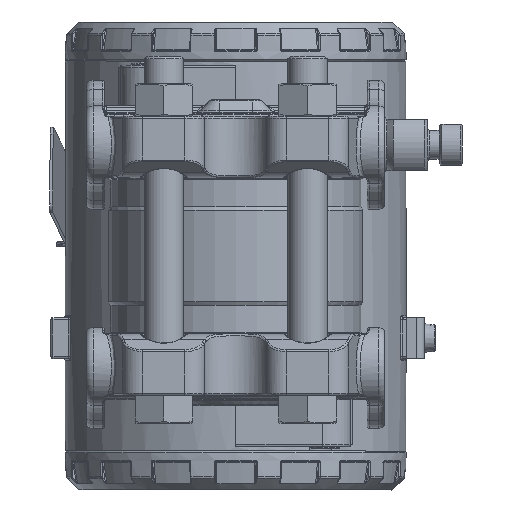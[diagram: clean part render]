
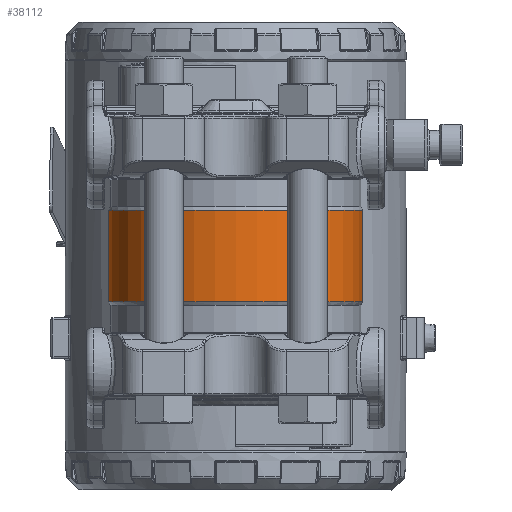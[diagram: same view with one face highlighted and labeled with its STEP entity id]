
A CAD part, left-side view. The second image highlights one B-rep face of the part: STEP entity #38112.
In plain terms, the highlighted cylindrical face has radius 31 mm (diameter 62 mm), a partial arc.
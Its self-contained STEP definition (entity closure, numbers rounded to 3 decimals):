
#2312=B_SPLINE_CURVE_WITH_KNOTS('',3,(#68599,#68600,#68601,#68602,#68603),
 .UNSPECIFIED.,.F.,.F.,(4,1,4),(0.57,0.913,1.279),
 .UNSPECIFIED.);
#2314=B_SPLINE_CURVE_WITH_KNOTS('',3,(#68616,#68617,#68618,#68619,#68620,
#68621),.UNSPECIFIED.,.F.,.F.,(4,1,1,4),(0.,0.274,0.548,
0.708),.UNSPECIFIED.);
#2315=B_SPLINE_CURVE_WITH_KNOTS('',3,(#68624,#68625,#68626,#68627,#68628),
 .UNSPECIFIED.,.F.,.F.,(4,1,4),(0.57,0.913,1.279),
 .UNSPECIFIED.);
#2316=B_SPLINE_CURVE_WITH_KNOTS('',3,(#68630,#68631,#68632,#68633,#68634,
#68635),.UNSPECIFIED.,.F.,.F.,(4,1,1,4),(0.,0.274,
0.548,0.708),.UNSPECIFIED.);
#3899=CYLINDRICAL_SURFACE('',#42039,31.);
#5124=FACE_OUTER_BOUND('',#7687,.T.);
#7687=EDGE_LOOP('',(#28825,#28826,#28827,#28828,#28829,#28830,#28831,#28832,
#28833,#28834));
#9899=LINE('',#68623,#11273);
#9900=LINE('',#68636,#11274);
#11273=VECTOR('',#49309,10.);
#11274=VECTOR('',#49310,10.);
#13244=CIRCLE('',#42019,31.);
#13247=CIRCLE('',#42022,31.);
#13253=CIRCLE('',#42032,31.);
#13254=CIRCLE('',#42033,31.);
#16398=VERTEX_POINT('',#68450);
#16400=VERTEX_POINT('',#68463);
#16401=VERTEX_POINT('',#68474);
#16413=VERTEX_POINT('',#68537);
#16414=VERTEX_POINT('',#68539);
#16415=VERTEX_POINT('',#68551);
#16417=VERTEX_POINT('',#68598);
#16420=VERTEX_POINT('',#68615);
#16421=VERTEX_POINT('',#68622);
#16422=VERTEX_POINT('',#68629);
#20777=EDGE_CURVE('',#16401,#16400,#13244,.T.);
#20781=EDGE_CURVE('',#16398,#16401,#13247,.T.);
#20793=EDGE_CURVE('',#16414,#16413,#13253,.T.);
#20796=EDGE_CURVE('',#16413,#16415,#13254,.T.);
#20800=EDGE_CURVE('',#16398,#16417,#2312,.T.);
#20804=EDGE_CURVE('',#16420,#16400,#2314,.T.);
#20805=EDGE_CURVE('',#16421,#16420,#9899,.T.);
#20806=EDGE_CURVE('',#16414,#16421,#2315,.T.);
#20807=EDGE_CURVE('',#16422,#16415,#2316,.T.);
#20808=EDGE_CURVE('',#16417,#16422,#9900,.T.);
#28825=ORIENTED_EDGE('',*,*,#20781,.T.);
#28826=ORIENTED_EDGE('',*,*,#20777,.T.);
#28827=ORIENTED_EDGE('',*,*,#20804,.F.);
#28828=ORIENTED_EDGE('',*,*,#20805,.F.);
#28829=ORIENTED_EDGE('',*,*,#20806,.F.);
#28830=ORIENTED_EDGE('',*,*,#20793,.T.);
#28831=ORIENTED_EDGE('',*,*,#20796,.T.);
#28832=ORIENTED_EDGE('',*,*,#20807,.F.);
#28833=ORIENTED_EDGE('',*,*,#20808,.F.);
#28834=ORIENTED_EDGE('',*,*,#20800,.F.);
#38112=ADVANCED_FACE('',(#5124),#3899,.T.);
#42019=AXIS2_PLACEMENT_3D('',#68475,#49263,#49264);
#42022=AXIS2_PLACEMENT_3D('',#68481,#49270,#49271);
#42032=AXIS2_PLACEMENT_3D('',#68540,#49292,#49293);
#42033=AXIS2_PLACEMENT_3D('',#68562,#49294,#49295);
#42039=AXIS2_PLACEMENT_3D('',#68614,#49307,#49308);
#49263=DIRECTION('center_axis',(0.,0.,1.));
#49264=DIRECTION('ref_axis',(-1.,0.,0.));
#49270=DIRECTION('center_axis',(0.,0.,1.));
#49271=DIRECTION('ref_axis',(-1.,0.,0.));
#49292=DIRECTION('center_axis',(0.,0.,-1.));
#49293=DIRECTION('ref_axis',(-1.,0.,0.));
#49294=DIRECTION('center_axis',(0.,0.,-1.));
#49295=DIRECTION('ref_axis',(-1.,0.,0.));
#49307=DIRECTION('center_axis',(0.,0.,1.));
#49308=DIRECTION('ref_axis',(-1.,0.,0.));
#49309=DIRECTION('',(0.,0.,-1.));
#49310=DIRECTION('',(0.,0.,1.));
#68450=CARTESIAN_POINT('',(29.591,9.241,-11.134));
#68463=CARTESIAN_POINT('',(29.591,-9.241,-11.134));
#68474=CARTESIAN_POINT('',(-31.,0.,-11.134));
#68475=CARTESIAN_POINT('Origin',(0.,0.,-11.134));
#68481=CARTESIAN_POINT('Origin',(0.,0.,-11.134));
#68537=CARTESIAN_POINT('',(-31.,0.,11.134));
#68539=CARTESIAN_POINT('',(29.591,-9.241,11.134));
#68540=CARTESIAN_POINT('Origin',(0.,0.,11.134));
#68551=CARTESIAN_POINT('',(29.591,9.241,11.134));
#68562=CARTESIAN_POINT('Origin',(0.,0.,11.134));
#68598=CARTESIAN_POINT('',(28.645,11.853,-5.));
#68599=CARTESIAN_POINT('Ctrl Pts',(29.591,9.241,-11.133));
#68600=CARTESIAN_POINT('Ctrl Pts',(29.348,10.019,-10.419));
#68601=CARTESIAN_POINT('Ctrl Pts',(28.86,11.344,-8.57));
#68602=CARTESIAN_POINT('Ctrl Pts',(28.645,11.853,-6.218));
#68603=CARTESIAN_POINT('Ctrl Pts',(28.645,11.853,-5.));
#68614=CARTESIAN_POINT('Origin',(0.,0.,0.));
#68615=CARTESIAN_POINT('',(28.645,-11.853,-5.));
#68616=CARTESIAN_POINT('Ctrl Pts',(28.645,-11.853,-5.));
#68617=CARTESIAN_POINT('Ctrl Pts',(28.645,-11.853,-5.913));
#68618=CARTESIAN_POINT('Ctrl Pts',(28.767,-11.563,-7.738));
#68619=CARTESIAN_POINT('Ctrl Pts',(29.174,-10.51,-9.79));
#68620=CARTESIAN_POINT('Ctrl Pts',(29.477,-9.605,-10.8));
#68621=CARTESIAN_POINT('Ctrl Pts',(29.59,-9.241,-11.134));
#68622=CARTESIAN_POINT('',(28.645,-11.853,5.));
#68623=CARTESIAN_POINT('',(28.645,-11.853,0.));
#68624=CARTESIAN_POINT('Ctrl Pts',(29.591,-9.241,11.133));
#68625=CARTESIAN_POINT('Ctrl Pts',(29.348,-10.019,10.419));
#68626=CARTESIAN_POINT('Ctrl Pts',(28.86,-11.344,8.57));
#68627=CARTESIAN_POINT('Ctrl Pts',(28.645,-11.853,6.218));
#68628=CARTESIAN_POINT('Ctrl Pts',(28.645,-11.853,5.));
#68629=CARTESIAN_POINT('',(28.645,11.853,5.));
#68630=CARTESIAN_POINT('Ctrl Pts',(28.645,11.853,5.));
#68631=CARTESIAN_POINT('Ctrl Pts',(28.645,11.853,5.913));
#68632=CARTESIAN_POINT('Ctrl Pts',(28.767,11.563,7.738));
#68633=CARTESIAN_POINT('Ctrl Pts',(29.174,10.51,9.79));
#68634=CARTESIAN_POINT('Ctrl Pts',(29.477,9.605,10.8));
#68635=CARTESIAN_POINT('Ctrl Pts',(29.59,9.241,11.134));
#68636=CARTESIAN_POINT('',(28.645,11.853,0.));
